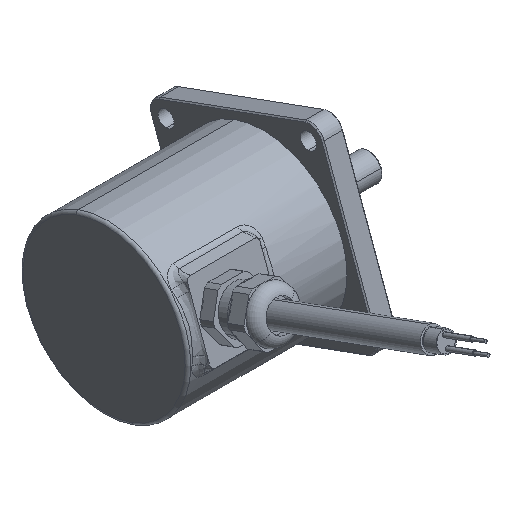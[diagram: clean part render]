
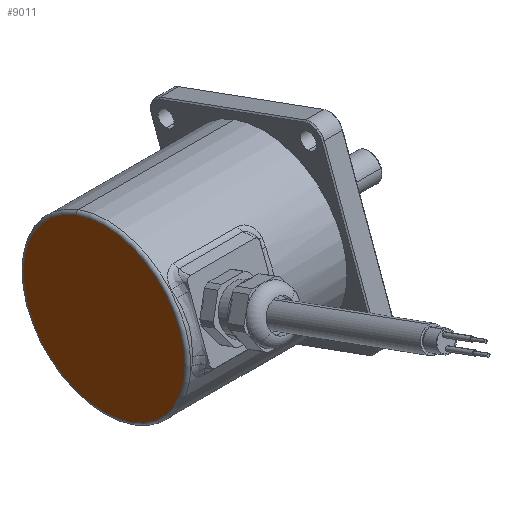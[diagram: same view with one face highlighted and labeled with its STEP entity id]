
A CAD part, isometric view. The second image highlights one B-rep face of the part: STEP entity #9011.
In plain terms, the highlighted planar face has unit normal (-1, 0, 0).
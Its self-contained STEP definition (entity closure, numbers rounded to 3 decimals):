
#813 = CIRCLE ( 'NONE', #9846, 28. ) ;
#1115 = CARTESIAN_POINT ( 'NONE',  ( -43.6, 0., 0. ) ) ;
#1129 = DIRECTION ( 'NONE',  ( -1., 0., 0. ) ) ;
#1252 = DIRECTION ( 'NONE',  ( 0., -0.342, -0.94 ) ) ;
#3530 = DIRECTION ( 'NONE',  ( 0., -0.342, -0.94 ) ) ;
#3535 = DIRECTION ( 'NONE',  ( 1., 0., 0. ) ) ;
#3537 = PLANE ( 'NONE',  #10483 ) ;
#3540 = CARTESIAN_POINT ( 'NONE',  ( -43.6, 27.251, -9.919 ) ) ;
#4306 = CARTESIAN_POINT ( 'NONE',  ( -43.6, 0., 0. ) ) ;
#4308 = DIRECTION ( 'NONE',  ( 0., -0.342, -0.94 ) ) ;
#4515 = DIRECTION ( 'NONE',  ( -1., 0., 0. ) ) ;
#5706 = EDGE_CURVE ( 'NONE', #12320, #12044, #9433, .T. ) ;
#5811 = EDGE_CURVE ( 'NONE', #12044, #12320, #813, .T. ) ;
#8043 = CARTESIAN_POINT ( 'NONE',  ( -43.6, -9.577, -26.311 ) ) ;
#8077 = CARTESIAN_POINT ( 'NONE',  ( -43.6, 9.577, 26.311 ) ) ;
#8476 = FACE_OUTER_BOUND ( 'NONE', #8741, .T. ) ;
#8741 = EDGE_LOOP ( 'NONE', ( #11129, #11251 ) ) ;
#9011 = ADVANCED_FACE ( 'NONE', ( #8476 ), #3537, .F. ) ;
#9433 = CIRCLE ( 'NONE', #9621, 28. ) ;
#9621 = AXIS2_PLACEMENT_3D ( 'NONE', #4306, #4515, #4308 ) ;
#9846 = AXIS2_PLACEMENT_3D ( 'NONE', #1115, #1129, #1252 ) ;
#10483 = AXIS2_PLACEMENT_3D ( 'NONE', #3540, #3535, #3530 ) ;
#11129 = ORIENTED_EDGE ( 'NONE', *, *, #5706, .T. ) ;
#11251 = ORIENTED_EDGE ( 'NONE', *, *, #5811, .T. ) ;
#12044 = VERTEX_POINT ( 'NONE', #8077 ) ;
#12320 = VERTEX_POINT ( 'NONE', #8043 ) ;
